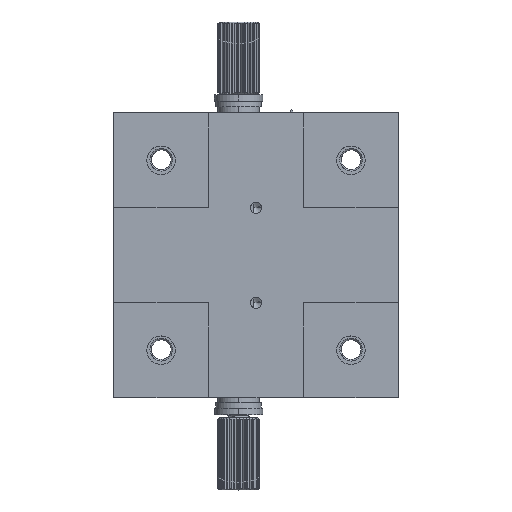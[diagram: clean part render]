
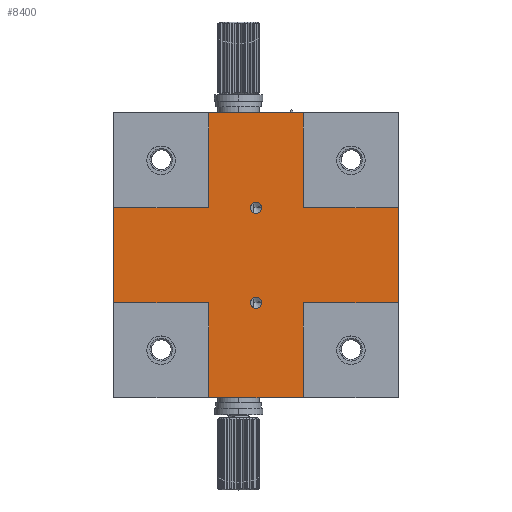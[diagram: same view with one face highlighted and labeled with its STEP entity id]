
A CAD part, top view. The second image highlights one B-rep face of the part: STEP entity #8400.
In plain terms, the highlighted planar face has unit normal (0, 0, 1).
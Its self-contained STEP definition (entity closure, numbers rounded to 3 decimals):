
#4985=DIRECTION('',(-1.,0.,0.));
#4986=VECTOR('',#4985,25.);
#4987=CARTESIAN_POINT('',(12.5,0.,7.75));
#4988=LINE('',#4987,#4986);
#5200=DIRECTION('',(1.,0.,0.));
#5201=VECTOR('',#5200,25.);
#5202=CARTESIAN_POINT('',(-12.5,75.,7.75));
#5203=LINE('',#5202,#5201);
#5868=DIRECTION('',(0.,-1.,0.));
#5869=VECTOR('',#5868,25.);
#5870=CARTESIAN_POINT('',(12.5,75.,7.75));
#5871=LINE('',#5870,#5869);
#5876=CARTESIAN_POINT('',(0.,25.,7.75));
#5877=DIRECTION('',(0.,0.,-1.));
#5878=DIRECTION('',(-1.,0.,0.));
#5879=AXIS2_PLACEMENT_3D('',#5876,#5877,#5878);
#5881=CARTESIAN_POINT('',(0.,25.,7.75));
#5882=DIRECTION('',(0.,0.,-1.));
#5883=DIRECTION('',(1.,0.,0.));
#5884=AXIS2_PLACEMENT_3D('',#5881,#5882,#5883);
#5886=CARTESIAN_POINT('',(0.,50.,7.75));
#5887=DIRECTION('',(0.,0.,-1.));
#5888=DIRECTION('',(-1.,0.,0.));
#5889=AXIS2_PLACEMENT_3D('',#5886,#5887,#5888);
#5891=CARTESIAN_POINT('',(0.,50.,7.75));
#5892=DIRECTION('',(0.,0.,-1.));
#5893=DIRECTION('',(1.,0.,0.));
#5894=AXIS2_PLACEMENT_3D('',#5891,#5892,#5893);
#5896=DIRECTION('',(0.,-1.,0.));
#5897=VECTOR('',#5896,25.);
#5898=CARTESIAN_POINT('',(12.5,25.,7.75));
#5899=LINE('',#5898,#5897);
#5926=DIRECTION('',(0.,-1.,0.));
#5927=VECTOR('',#5926,25.);
#5928=CARTESIAN_POINT('',(37.5,50.,7.75));
#5929=LINE('',#5928,#5927);
#5962=DIRECTION('',(-1.,0.,0.));
#5963=VECTOR('',#5962,25.);
#5964=CARTESIAN_POINT('',(37.5,25.,7.75));
#5965=LINE('',#5964,#5963);
#5970=DIRECTION('',(1.,0.,0.));
#5971=VECTOR('',#5970,25.);
#5972=CARTESIAN_POINT('',(12.5,50.,7.75));
#5973=LINE('',#5972,#5971);
#5986=DIRECTION('',(0.,1.,0.));
#5987=VECTOR('',#5986,25.);
#5988=CARTESIAN_POINT('',(-12.5,0.,7.75));
#5989=LINE('',#5988,#5987);
#6012=DIRECTION('',(0.,1.,0.));
#6013=VECTOR('',#6012,25.);
#6014=CARTESIAN_POINT('',(-37.5,25.,7.75));
#6015=LINE('',#6014,#6013);
#6040=DIRECTION('',(1.,0.,0.));
#6041=VECTOR('',#6040,25.);
#6042=CARTESIAN_POINT('',(-37.5,50.,7.75));
#6043=LINE('',#6042,#6041);
#6070=DIRECTION('',(0.,1.,0.));
#6071=VECTOR('',#6070,25.);
#6072=CARTESIAN_POINT('',(-12.5,50.,7.75));
#6073=LINE('',#6072,#6071);
#6082=DIRECTION('',(-1.,0.,0.));
#6083=VECTOR('',#6082,25.);
#6084=CARTESIAN_POINT('',(-12.5,25.,7.75));
#6085=LINE('',#6084,#6083);
#6753=CARTESIAN_POINT('',(-12.5,75.,7.75));
#6754=CARTESIAN_POINT('',(12.5,75.,7.75));
#6755=VERTEX_POINT('',#6753);
#6756=VERTEX_POINT('',#6754);
#6805=CARTESIAN_POINT('',(-12.5,50.,7.75));
#6806=VERTEX_POINT('',#6805);
#6809=CARTESIAN_POINT('',(12.5,50.,7.75));
#6810=VERTEX_POINT('',#6809);
#6910=CARTESIAN_POINT('',(-37.5,50.,7.75));
#6911=VERTEX_POINT('',#6910);
#6912=CARTESIAN_POINT('',(-1.5,25.,7.75));
#6913=CARTESIAN_POINT('',(1.5,25.,7.75));
#6914=VERTEX_POINT('',#6912);
#6915=VERTEX_POINT('',#6913);
#6916=CARTESIAN_POINT('',(37.5,50.,7.75));
#6917=VERTEX_POINT('',#6916);
#6919=CARTESIAN_POINT('',(-12.5,25.,7.75));
#6921=VERTEX_POINT('',#6919);
#6922=CARTESIAN_POINT('',(12.5,25.,7.75));
#6923=VERTEX_POINT('',#6922);
#6924=CARTESIAN_POINT('',(12.5,0.,7.75));
#6925=VERTEX_POINT('',#6924);
#6926=CARTESIAN_POINT('',(-37.5,25.,7.75));
#6927=VERTEX_POINT('',#6926);
#6928=CARTESIAN_POINT('',(37.5,25.,7.75));
#6929=VERTEX_POINT('',#6928);
#6946=CARTESIAN_POINT('',(-12.5,0.,7.75));
#6947=VERTEX_POINT('',#6946);
#6948=CARTESIAN_POINT('',(-1.5,50.,7.75));
#6949=CARTESIAN_POINT('',(1.5,50.,7.75));
#6950=VERTEX_POINT('',#6948);
#6951=VERTEX_POINT('',#6949);
#8360=CARTESIAN_POINT('',(12.5,0.,7.75));
#8361=DIRECTION('',(0.,0.,-1.));
#8362=DIRECTION('',(-1.,0.,0.));
#8363=AXIS2_PLACEMENT_3D('',#8360,#8361,#8362);
#8364=PLANE('',#8363);
#8366=ORIENTED_EDGE('',*,*,#8365,.T.);
#8367=ORIENTED_EDGE('',*,*,#7303,.T.);
#8369=ORIENTED_EDGE('',*,*,#8368,.T.);
#8371=ORIENTED_EDGE('',*,*,#8370,.T.);
#8373=ORIENTED_EDGE('',*,*,#8372,.T.);
#8375=ORIENTED_EDGE('',*,*,#8374,.T.);
#8377=ORIENTED_EDGE('',*,*,#8376,.T.);
#8378=ORIENTED_EDGE('',*,*,#7458,.T.);
#8379=ORIENTED_EDGE('',*,*,#8351,.T.);
#8381=ORIENTED_EDGE('',*,*,#8380,.T.);
#8383=ORIENTED_EDGE('',*,*,#8382,.T.);
#8385=ORIENTED_EDGE('',*,*,#8384,.T.);
#8386=EDGE_LOOP('',(#8366,#8367,#8369,#8371,#8373,#8375,#8377,#8378,#8379,#8381,
#8383,#8385));
#8387=FACE_OUTER_BOUND('',#8386,.F.);
#8389=ORIENTED_EDGE('',*,*,#8388,.F.);
#8391=ORIENTED_EDGE('',*,*,#8390,.F.);
#8392=EDGE_LOOP('',(#8389,#8391));
#8393=FACE_BOUND('',#8392,.F.);
#8395=ORIENTED_EDGE('',*,*,#8394,.F.);
#8397=ORIENTED_EDGE('',*,*,#8396,.F.);
#8398=EDGE_LOOP('',(#8395,#8397));
#8399=FACE_BOUND('',#8398,.F.);
#8400=ADVANCED_FACE('',(#8387,#8393,#8399),#8364,.F.);
#5880=CIRCLE('',#5879,1.5);
#5885=CIRCLE('',#5884,1.5);
#5890=CIRCLE('',#5889,1.5);
#5895=CIRCLE('',#5894,1.5);
#7303=EDGE_CURVE('',#6925,#6947,#4988,.T.);
#7458=EDGE_CURVE('',#6755,#6756,#5203,.T.);
#8351=EDGE_CURVE('',#6756,#6810,#5871,.T.);
#8365=EDGE_CURVE('',#6923,#6925,#5899,.T.);
#8368=EDGE_CURVE('',#6947,#6921,#5989,.T.);
#8370=EDGE_CURVE('',#6921,#6927,#6085,.T.);
#8372=EDGE_CURVE('',#6927,#6911,#6015,.T.);
#8374=EDGE_CURVE('',#6911,#6806,#6043,.T.);
#8376=EDGE_CURVE('',#6806,#6755,#6073,.T.);
#8380=EDGE_CURVE('',#6810,#6917,#5973,.T.);
#8382=EDGE_CURVE('',#6917,#6929,#5929,.T.);
#8384=EDGE_CURVE('',#6929,#6923,#5965,.T.);
#8388=EDGE_CURVE('',#6914,#6915,#5880,.T.);
#8390=EDGE_CURVE('',#6915,#6914,#5885,.T.);
#8394=EDGE_CURVE('',#6950,#6951,#5890,.T.);
#8396=EDGE_CURVE('',#6951,#6950,#5895,.T.);
